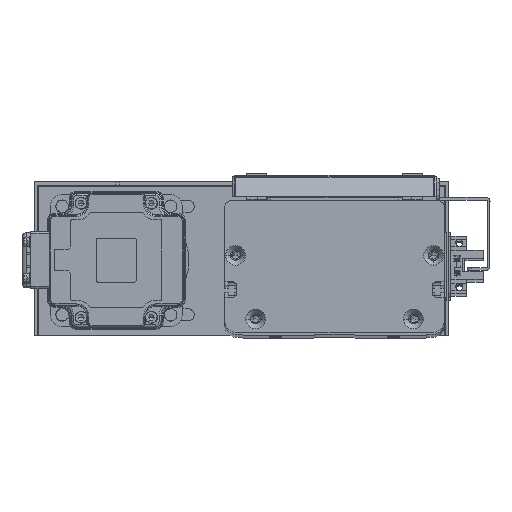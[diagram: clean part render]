
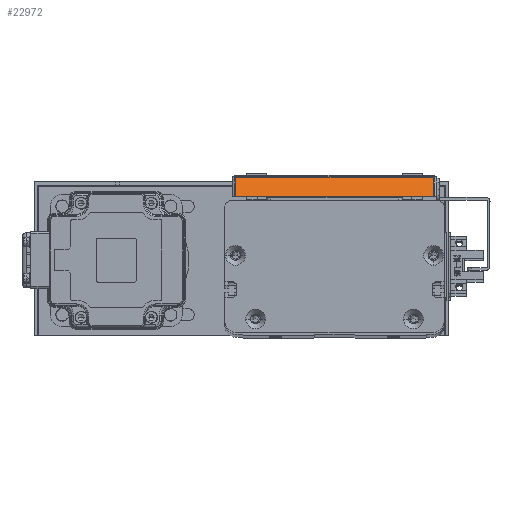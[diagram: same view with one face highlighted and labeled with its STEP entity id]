
A CAD part, top view. The second image highlights one B-rep face of the part: STEP entity #22972.
In plain terms, the highlighted planar face has unit normal (0, 0.707, 0.707) as drawn and (-0.707, 0, -0.707) by its records, which use the part's own axes.
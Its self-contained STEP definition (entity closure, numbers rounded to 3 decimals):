
#859 = EDGE_CURVE ( 'NONE', #16149, #9189, #24038, .T. ) ;
#1924 = LINE ( 'NONE', #67409, #43160 ) ;
#4378 = EDGE_CURVE ( 'NONE', #9189, #49238, #1924, .T. ) ;
#4781 = DIRECTION ( 'NONE',  ( -0.707, 0., 0.707 ) ) ;
#9189 = VERTEX_POINT ( 'NONE', #41302 ) ;
#9770 = VECTOR ( 'NONE', #37450, 1000. ) ;
#10037 = EDGE_CURVE ( 'NONE', #49238, #14079, #59915, .T. ) ;
#10641 = CARTESIAN_POINT ( 'NONE',  ( -68., 93.4, 5.6 ) ) ;
#14079 = VERTEX_POINT ( 'NONE', #23348 ) ;
#16149 = VERTEX_POINT ( 'NONE', #54181 ) ;
#22972 = ADVANCED_FACE ( 'NONE', ( #37601 ), #32048, .T. ) ;
#23348 = CARTESIAN_POINT ( 'NONE',  ( -57.298, 91.7, -5.102 ) ) ;
#24038 = LINE ( 'NONE', #68753, #9770 ) ;
#24412 = CARTESIAN_POINT ( 'NONE',  ( -68., 91.7, 5.6 ) ) ;
#28260 = ORIENTED_EDGE ( 'NONE', *, *, #4378, .T. ) ;
#31017 = ORIENTED_EDGE ( 'NONE', *, *, #10037, .T. ) ;
#31575 = DIRECTION ( 'NONE',  ( -0.707, 0., -0.707 ) ) ;
#32048 = PLANE ( 'NONE',  #60041 ) ;
#34372 = DIRECTION ( 'NONE',  ( 0., -1., 0. ) ) ;
#34753 = CARTESIAN_POINT ( 'NONE',  ( -66.5, 91.7, 4.1 ) ) ;
#37450 = DIRECTION ( 'NONE',  ( -0.707, 0., 0.707 ) ) ;
#37601 = FACE_OUTER_BOUND ( 'NONE', #61499, .T. ) ;
#41302 = CARTESIAN_POINT ( 'NONE',  ( -66.5, 1.7, 4.1 ) ) ;
#43160 = VECTOR ( 'NONE', #61981, 1000. ) ;
#43695 = EDGE_CURVE ( 'NONE', #14079, #16149, #62324, .T. ) ;
#46101 = CARTESIAN_POINT ( 'NONE',  ( -57.298, 93.4, -5.102 ) ) ;
#47984 = VECTOR ( 'NONE', #34372, 1000. ) ;
#49238 = VERTEX_POINT ( 'NONE', #34753 ) ;
#50958 = ORIENTED_EDGE ( 'NONE', *, *, #859, .T. ) ;
#54181 = CARTESIAN_POINT ( 'NONE',  ( -57.298, 1.7, -5.102 ) ) ;
#54846 = VECTOR ( 'NONE', #66560, 1000. ) ;
#54853 = ORIENTED_EDGE ( 'NONE', *, *, #43695, .T. ) ;
#59915 = LINE ( 'NONE', #24412, #54846 ) ;
#60041 = AXIS2_PLACEMENT_3D ( 'NONE', #10641, #31575, #4781 ) ;
#61499 = EDGE_LOOP ( 'NONE', ( #50958, #28260, #31017, #54853 ) ) ;
#61981 = DIRECTION ( 'NONE',  ( 0., 1., 0. ) ) ;
#62324 = LINE ( 'NONE', #46101, #47984 ) ;
#66560 = DIRECTION ( 'NONE',  ( 0.707, 0., -0.707 ) ) ;
#67409 = CARTESIAN_POINT ( 'NONE',  ( -66.5, 93.4, 4.1 ) ) ;
#68753 = CARTESIAN_POINT ( 'NONE',  ( -68., 1.7, 5.6 ) ) ;
